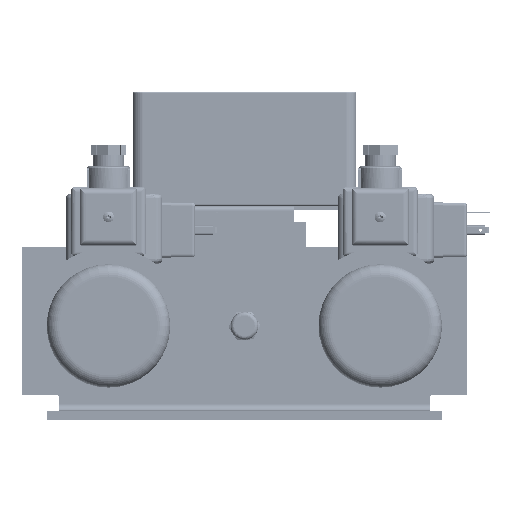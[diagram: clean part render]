
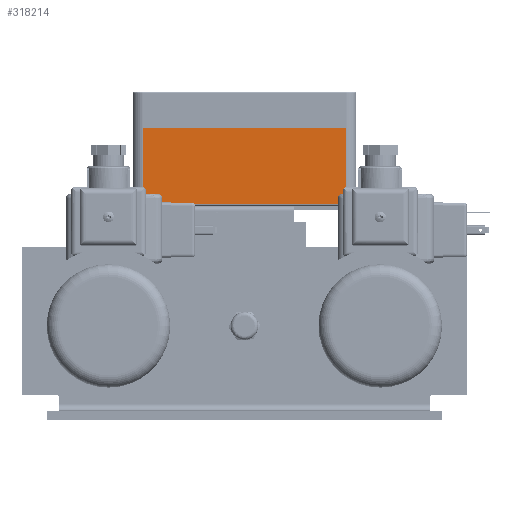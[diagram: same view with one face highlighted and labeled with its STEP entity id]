
A CAD part, front view. The second image highlights one B-rep face of the part: STEP entity #318214.
In plain terms, the highlighted planar face has unit normal (0, -1, 0).
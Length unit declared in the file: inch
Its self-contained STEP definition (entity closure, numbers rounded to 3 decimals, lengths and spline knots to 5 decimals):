
#3524 = ORIENTED_EDGE ( 'NONE', *, *, #199749, .T. ) ;
#21512 = VERTEX_POINT ( 'NONE', #290212 ) ;
#32130 = DIRECTION ( 'NONE',  ( 1., 0., 0. ) ) ;
#34202 = VERTEX_POINT ( 'NONE', #66244 ) ;
#38651 = DIRECTION ( 'NONE',  ( 0., 0., -1. ) ) ;
#58961 = EDGE_CURVE ( 'NONE', #34202, #21512, #65085, .T. ) ;
#65085 = LINE ( 'NONE', #283718, #99565 ) ;
#66244 = CARTESIAN_POINT ( 'NONE',  ( -0.79325, -25.71876, 1.90412 ) ) ;
#68649 = VECTOR ( 'NONE', #241746, 39.37008 ) ;
#68786 = CARTESIAN_POINT ( 'NONE',  ( 3.29725, -25.71876, 0.36812 ) ) ;
#84960 = CARTESIAN_POINT ( 'NONE',  ( -0.79325, -25.71876, 1.90412 ) ) ;
#99565 = VECTOR ( 'NONE', #32130, 39.37008 ) ;
#112889 = PLANE ( 'NONE',  #144292 ) ;
#115725 = EDGE_LOOP ( 'NONE', ( #3524, #185810, #360136, #173541 ) ) ;
#134058 = EDGE_CURVE ( 'NONE', #21512, #240830, #339101, .T. ) ;
#141433 = DIRECTION ( 'NONE',  ( 0., 0., -1. ) ) ;
#144292 = AXIS2_PLACEMENT_3D ( 'NONE', #265199, #327861, #141433 ) ;
#153397 = CARTESIAN_POINT ( 'NONE',  ( 3.29725, -25.71876, 0.36812 ) ) ;
#158786 = VECTOR ( 'NONE', #38651, 39.37008 ) ;
#173541 = ORIENTED_EDGE ( 'NONE', *, *, #58961, .F. ) ;
#185810 = ORIENTED_EDGE ( 'NONE', *, *, #322987, .T. ) ;
#199749 = EDGE_CURVE ( 'NONE', #34202, #298625, #303047, .T. ) ;
#220341 = VECTOR ( 'NONE', #336647, 39.37008 ) ;
#240830 = VERTEX_POINT ( 'NONE', #68786 ) ;
#241746 = DIRECTION ( 'NONE',  ( 1., 0., 0. ) ) ;
#254992 = CARTESIAN_POINT ( 'NONE',  ( 3.29725, -25.71876, 1.90412 ) ) ;
#262741 = FACE_OUTER_BOUND ( 'NONE', #115725, .T. ) ;
#265199 = CARTESIAN_POINT ( 'NONE',  ( -0.79325, -25.71876, 1.90412 ) ) ;
#283718 = CARTESIAN_POINT ( 'NONE',  ( -0.79325, -25.71876, 1.90412 ) ) ;
#290212 = CARTESIAN_POINT ( 'NONE',  ( 3.29725, -25.71876, 1.90412 ) ) ;
#298625 = VERTEX_POINT ( 'NONE', #403165 ) ;
#303047 = LINE ( 'NONE', #84960, #220341 ) ;
#318214 = ADVANCED_FACE ( 'NONE', ( #262741 ), #112889, .F. ) ;
#322987 = EDGE_CURVE ( 'NONE', #298625, #240830, #336546, .T. ) ;
#327861 = DIRECTION ( 'NONE',  ( 0., 1., 0. ) ) ;
#336546 = LINE ( 'NONE', #153397, #68649 ) ;
#336647 = DIRECTION ( 'NONE',  ( 0., 0., -1. ) ) ;
#339101 = LINE ( 'NONE', #254992, #158786 ) ;
#360136 = ORIENTED_EDGE ( 'NONE', *, *, #134058, .F. ) ;
#403165 = CARTESIAN_POINT ( 'NONE',  ( -0.79325, -25.71876, 0.36812 ) ) ;
